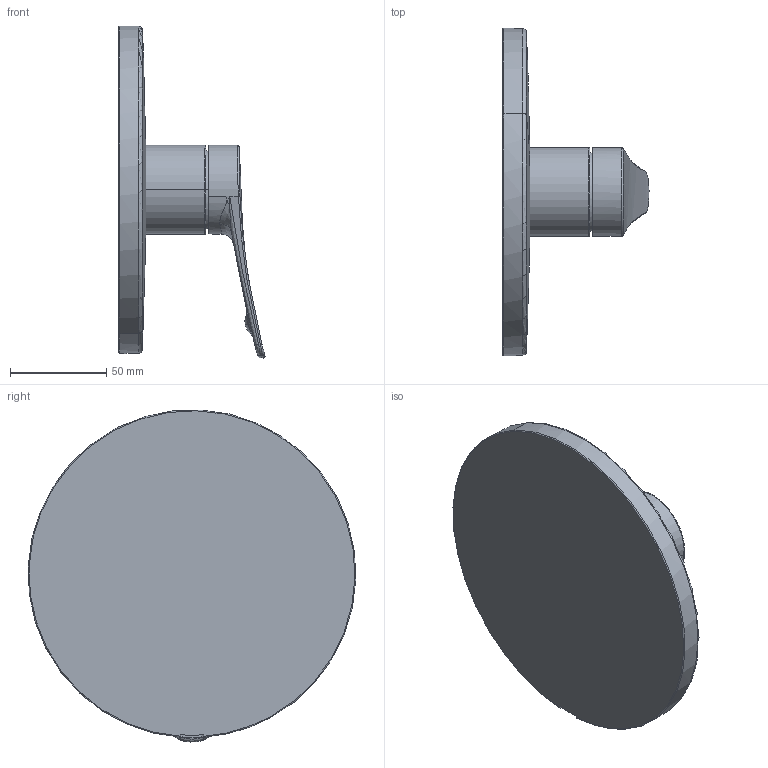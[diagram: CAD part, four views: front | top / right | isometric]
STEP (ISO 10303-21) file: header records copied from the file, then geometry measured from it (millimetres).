
FILE_DESCRIPTION((''),'2;1');
FILE_NAME('21_404_502_XXX','2018-02-21T',('ES997'),(''),'CREO PARAMETRIC BY PTC INC, 2016260','CREO PARAMETRIC BY PTC INC, 2016260','');
FILE_SCHEMA(('CONFIG_CONTROL_DESIGN'));
Length unit declared in the file: millimetre
Products named in the file (1): 21_404_502_XXX
Bounding box: 75.73 x 169.87 x 172.1 mm (x, y, z)
Volume: 330759.4 mm3; surface area: 78726 mm2
Topology: 3 solids, 3 shells, 518 faces, 1183 edges, 665 vertices
Faces by surface type: bspline 197, cylinder 102, torus 79, plane 59, cone 41, sphere 40
Entity records: 27470 total; most frequent: CARTESIAN_POINT 17423, ORIENTED_EDGE 2346, DIRECTION 1742, EDGE_CURVE 1173, AXIS2_PLACEMENT_3D 758, VERTEX_POINT 665, EDGE_LOOP 528, FACE_OUTER_BOUND 518
